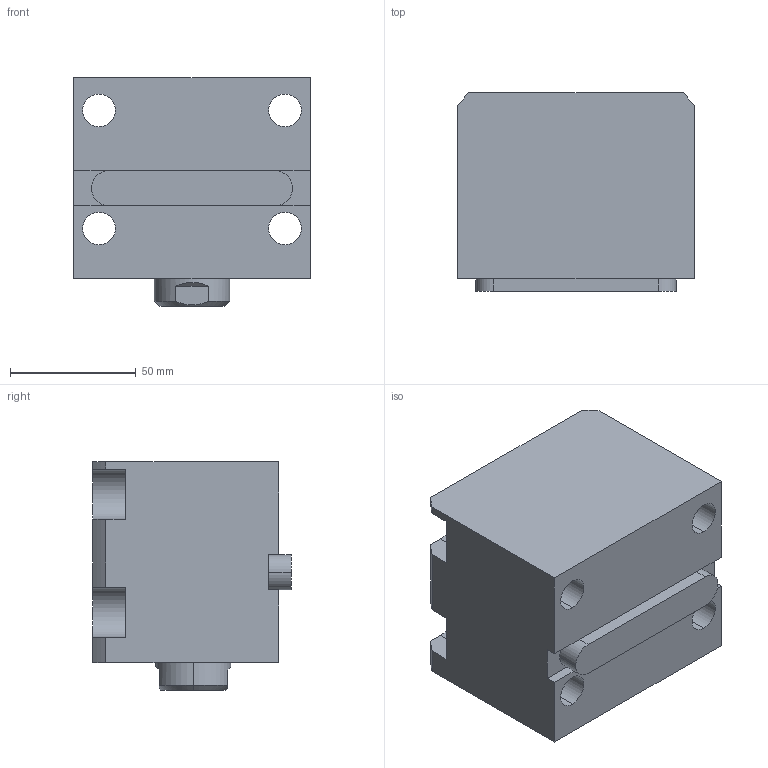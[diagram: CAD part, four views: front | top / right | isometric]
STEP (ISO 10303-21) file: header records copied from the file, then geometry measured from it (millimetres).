
FILE_DESCRIPTION (( 'STEP AP203' ), '1' );
FILE_NAME ('CHTB-LA50-20N.STEP', '2018-05-18T00:21:14', ( '' ), ( '' ), 'SwSTEP 2.0', 'SolidWorks 2015', '' );
FILE_SCHEMA (( 'CONFIG_CONTROL_DESIGN' ));
Length unit declared in the file: millimetre
Products named in the file (4): 活塞杆LA50-20N; 掛极LA50-20N; CHTB-LA50-20N; CHTM-SDMA50QG
Assembly tree (3 placements, depth 2):
  CHTB-LA50-20N
    掛极LA50-20N
    活塞杆LA50-20N
    CHTM-SDMA50QG
Bounding box: 94 x 79 x 91 mm (x, y, z)
Volume: 476007.1 mm3; surface area: 95243.6 mm2
Topology: 3 solids, 3 shells, 202 faces, 542 edges, 358 vertices
Faces by surface type: cylinder 96, plane 53, cone 23, torus 16, bspline 14
Entity records: 11255 total; most frequent: CARTESIAN_POINT 5992, ORIENTED_EDGE 1072, DIRECTION 958, EDGE_CURVE 536, AXIS2_PLACEMENT_3D 377, VERTEX_POINT 358, EDGE_LOOP 234, VECTOR 204
